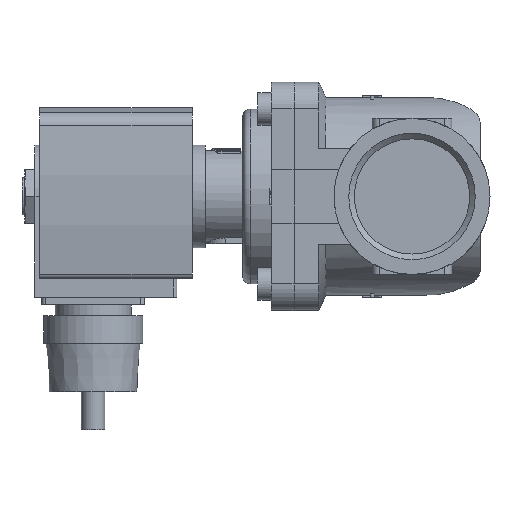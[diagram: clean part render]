
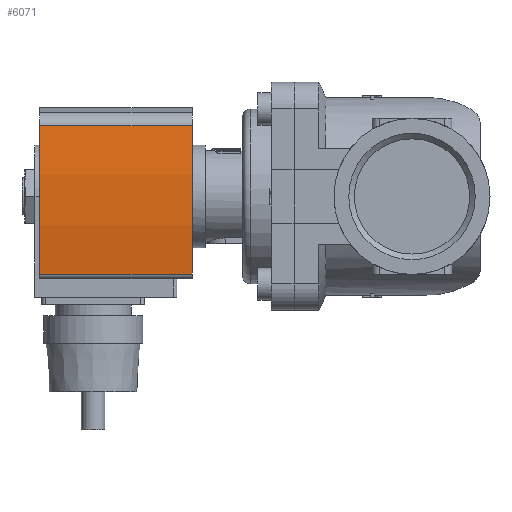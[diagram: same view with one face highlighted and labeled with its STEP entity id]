
A CAD part, left-side view. The second image highlights one B-rep face of the part: STEP entity #6071.
In plain terms, the highlighted cylindrical face has radius 130 mm (diameter 260 mm), a partial arc.
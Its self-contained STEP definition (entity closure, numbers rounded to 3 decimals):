
#242=CYLINDRICAL_SURFACE('',#6609,130.);
#634=LINE('',#9816,#1046);
#635=LINE('',#9820,#1047);
#1046=VECTOR('',#8019,1000.);
#1047=VECTOR('',#8024,1000.);
#2368=ORIENTED_EDGE('',*,*,#3215,.T.);
#2369=ORIENTED_EDGE('',*,*,#3216,.F.);
#2370=ORIENTED_EDGE('',*,*,#3204,.F.);
#2371=ORIENTED_EDGE('',*,*,#3214,.T.);
#3204=EDGE_CURVE('',#3734,#3735,#3963,.T.);
#3214=EDGE_CURVE('',#3734,#3741,#634,.T.);
#3215=EDGE_CURVE('',#3741,#3742,#3971,.T.);
#3216=EDGE_CURVE('',#3735,#3742,#635,.T.);
#3734=VERTEX_POINT('',#9796);
#3735=VERTEX_POINT('',#9798);
#3741=VERTEX_POINT('',#9815);
#3742=VERTEX_POINT('',#9819);
#3963=CIRCLE('',#6599,130.);
#3971=CIRCLE('',#6610,130.);
#4297=EDGE_LOOP('',(#2368,#2369,#2370,#2371));
#4649=FACE_BOUND('',#4297,.T.);
#6071=ADVANCED_FACE('',(#4649),#242,.T.);
#6599=AXIS2_PLACEMENT_3D('',#9797,#7997,#7998);
#6609=AXIS2_PLACEMENT_3D('',#9817,#8020,#8021);
#6610=AXIS2_PLACEMENT_3D('',#9818,#8022,#8023);
#7997=DIRECTION('',(0.,1.,0.));
#7998=DIRECTION('',(1.,0.,0.));
#8019=DIRECTION('',(0.,-1.,0.));
#8020=DIRECTION('',(0.,-1.,0.));
#8021=DIRECTION('',(0.,0.,-1.));
#8022=DIRECTION('',(0.,1.,0.));
#8023=DIRECTION('',(1.,0.,0.));
#8024=DIRECTION('',(0.,-1.,0.));
#9796=CARTESIAN_POINT('',(-20.382,14.,18.392));
#9797=CARTESIAN_POINT('',(0.,14.,-110.));
#9798=CARTESIAN_POINT('',(18.639,14.,18.657));
#9815=CARTESIAN_POINT('',(-20.382,-26.,18.392));
#9816=CARTESIAN_POINT('',(-20.382,14.,18.392));
#9817=CARTESIAN_POINT('',(0.,14.,-110.));
#9818=CARTESIAN_POINT('',(0.,-26.,-110.));
#9819=CARTESIAN_POINT('',(18.639,-26.,18.657));
#9820=CARTESIAN_POINT('',(18.639,14.,18.657));
